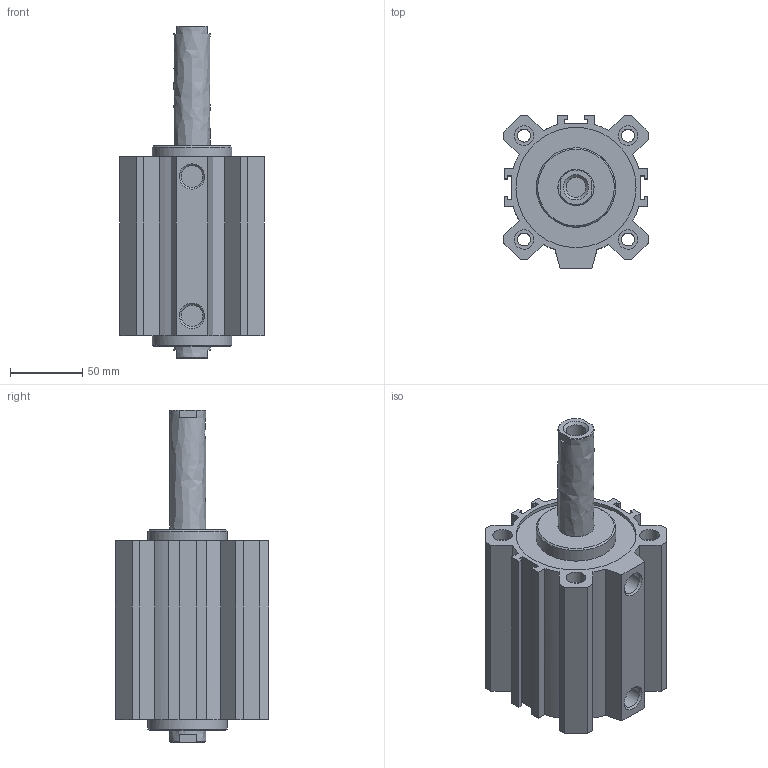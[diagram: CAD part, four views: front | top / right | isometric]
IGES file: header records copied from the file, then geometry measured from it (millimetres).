
Global section: file name: 1514_80_0075; native system: Autodesk Inventor 2014; preprocessor: unknown; author: A. Manieri; date: 20160824.142433; units: millimetre
Bounding box: 100 x 106 x 230 mm (x, y, z)
Volume: 734973.9 mm3; surface area: 170462 mm2
Topology: 2 solids, 2 shells, 132 faces, 346 edges, 238 vertices
Faces by surface type: bspline 132
